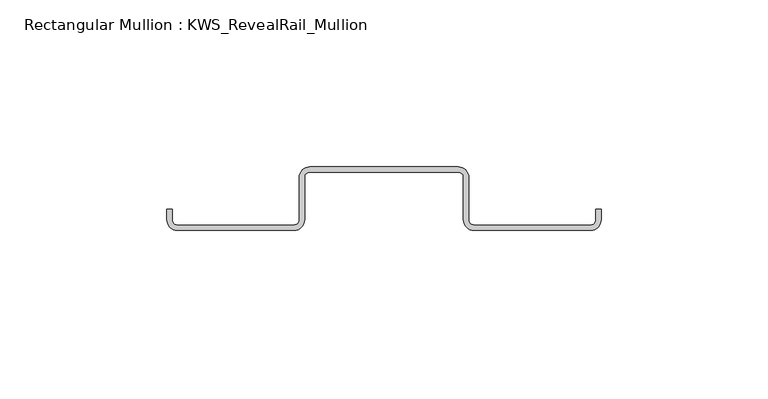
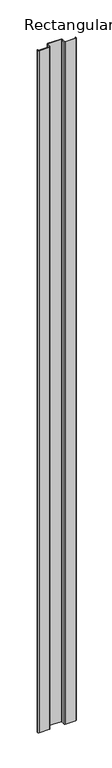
"""IFC4 building model written with IfcOpenShell, lengths in millimetres: member geometry, Rectangular Mullion : KWS_RevealRail_Mullion."""

from ifc_helpers import new_model, si_unit, point, frame, frame_2d, origin, place, context, project, spatial, polyline, circle_curve, trimmed, segment, composite_curve, outline, extrude, source, transform, mapped, element, save


def rectangular_mullion_kws_revealrail_mullion_635518cf(model_context):
    return source(origin(), model_context, "Body", "SweptSolid", [
        extrude(outline(composite_curve([segment(polyline([(-65.0875, -15.8115), (-65.0875, -12.6365), (-63.5, -12.6365), (-63.5, -15.8115)]), True, "CONTINUOUS"), segment(trimmed(circle_curve(frame_2d((-61.9125, -15.8115)), 1.5875), [point((-63.5, -15.8115))], [point((-61.9125, -17.399))], True, "CARTESIAN"), True, "CONTINUOUS"), segment(polyline([(-61.9125, -17.399), (-26.9875, -17.399)]), True, "CONTINUOUS"), segment(trimmed(circle_curve(frame_2d((-26.9875, -15.8115)), 1.5875), [point((-26.9875, -17.399))], [point((-25.4, -15.8115))], True, "CARTESIAN"), True, "CONTINUOUS"), segment(polyline([(-25.4, -15.8115), (-25.4, -3.1115)]), True, "CONTINUOUS"), segment(trimmed(circle_curve(frame_2d((-22.225, -3.1115)), 3.175), [point((-25.4, -3.1115))], [point((-22.225, 0.0635))], False, "CARTESIAN"), True, "CONTINUOUS"), segment(polyline([(-22.225, 0.0635), (22.225, 0.0635)]), True, "CONTINUOUS"), segment(trimmed(circle_curve(frame_2d((22.225, -3.1115)), 3.175), [point((22.225, 0.0635))], [point((25.4, -3.1115))], False, "CARTESIAN"), True, "CONTINUOUS"), segment(polyline([(25.4, -3.1115), (25.4, -15.8115)]), True, "CONTINUOUS"), segment(trimmed(circle_curve(frame_2d((26.9875, -15.8115)), 1.5875), [point((25.4, -15.8115))], [point((26.9875, -17.399))], True, "CARTESIAN"), True, "CONTINUOUS"), segment(polyline([(26.9875, -17.399), (61.9125, -17.399)]), True, "CONTINUOUS"), segment(trimmed(circle_curve(frame_2d((61.9125, -15.8115)), 1.5875), [point((61.9125, -17.399))], [point((63.5, -15.8115))], True, "CARTESIAN"), True, "CONTINUOUS"), segment(polyline([(63.5, -15.8115), (63.5, -12.6365), (65.0875, -12.6365), (65.0875, -15.8115)]), True, "CONTINUOUS"), segment(trimmed(circle_curve(frame_2d((61.9125, -15.8115)), 3.175), [point((65.0875, -15.8115))], [point((61.9125, -18.9865))], False, "CARTESIAN"), True, "CONTINUOUS"), segment(polyline([(61.9125, -18.9865), (26.9875, -18.9865)]), True, "CONTINUOUS"), segment(trimmed(circle_curve(frame_2d((26.9875, -15.8115)), 3.175), [point((26.9875, -18.9865))], [point((23.8125, -15.8115))], False, "CARTESIAN"), True, "CONTINUOUS"), segment(polyline([(23.8125, -15.8115), (23.8125, -3.1115)]), True, "CONTINUOUS"), segment(trimmed(circle_curve(frame_2d((22.225, -3.1115)), 1.5875), [point((23.8125, -3.1115))], [point((22.225, -1.524))], True, "CARTESIAN"), True, "CONTINUOUS"), segment(polyline([(22.225, -1.524), (-22.225, -1.524)]), True, "CONTINUOUS"), segment(trimmed(circle_curve(frame_2d((-22.225, -3.1115)), 1.5875), [point((-22.225, -1.524))], [point((-23.8125, -3.1115))], True, "CARTESIAN"), True, "CONTINUOUS"), segment(polyline([(-23.8125, -3.1115), (-23.8125, -15.8115)]), True, "CONTINUOUS"), segment(trimmed(circle_curve(frame_2d((-26.9875, -15.8115)), 3.175), [point((-23.8125, -15.8115))], [point((-26.9875, -18.9865))], False, "CARTESIAN"), True, "CONTINUOUS"), segment(polyline([(-26.9875, -18.9865), (-61.9125, -18.9865)]), True, "CONTINUOUS"), segment(trimmed(circle_curve(frame_2d((-61.9125, -15.8115)), 3.175), [point((-61.9125, -18.9865))], [point((-65.0875, -15.8115))], False, "CARTESIAN"), True, "CONTINUOUS")], self_intersect=False)), frame((0.0, 0.0, -2438.4), z_axis=(0.0, 0.0, 1.0), x_axis=(1.0, 0.0, 0.0)), (0.0, 0.0, 1.0), 2438.4),
    ])


if __name__ == "__main__":
    model = new_model("IFC4")
    model_context = context("Model", 3, world=origin())
    ifc_project = project(units=[si_unit("LENGTHUNIT", "METRE", prefix="MILLI")], contexts=[model_context])
    site = spatial("IfcSite", under=ifc_project)
    building = spatial("IfcBuilding", under=site)
    placement = place(None, origin())
    rectangular_mullion_kws_revealrail_mullion_shape = rectangular_mullion_kws_revealrail_mullion_635518cf(model_context)
    element("IfcMember", 1, ObjectType="Rectangular Mullion : KWS_RevealRail_Mullion", at=placement, inside=building, context=model_context, shape_type="MappedRepresentation", body=[
        mapped(rectangular_mullion_kws_revealrail_mullion_shape, transform((0.0, 0.0, 0.0), x_axis=(1.0, 0.0, 0.0), y_axis=(0.0, 1.0, 0.0), z_axis=(0.0, 0.0, 1.0))),
    ])
    save(model, "model.ifc")
